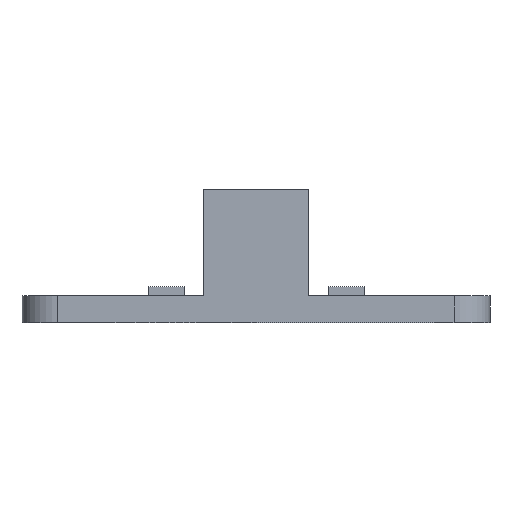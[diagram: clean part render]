
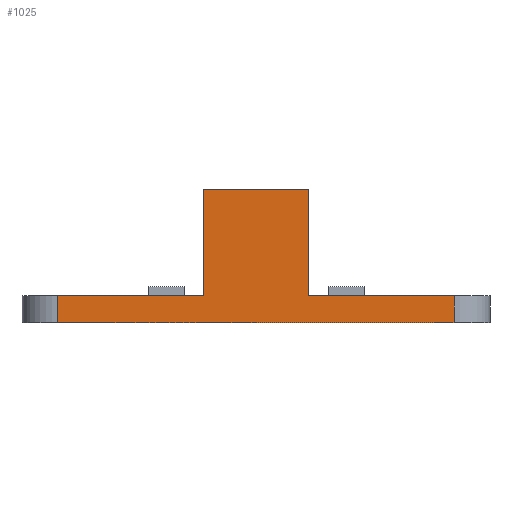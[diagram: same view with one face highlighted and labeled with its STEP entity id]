
A CAD part, left-side view. The second image highlights one B-rep face of the part: STEP entity #1025.
In plain terms, the highlighted planar face has unit normal (-1, 0, 0).
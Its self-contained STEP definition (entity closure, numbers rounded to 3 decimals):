
#44 = PLANE('',#45);
#45 = AXIS2_PLACEMENT_3D('',#46,#47,#48);
#46 = CARTESIAN_POINT('',(0.,0.,3.));
#47 = DIRECTION('',(0.,0.,-1.));
#48 = DIRECTION('',(1.,0.,0.));
#72 = CYLINDRICAL_SURFACE('',#73,4.);
#73 = AXIS2_PLACEMENT_3D('',#74,#75,#76);
#74 = CARTESIAN_POINT('',(-28.5,22.,3.));
#75 = DIRECTION('',(0.,0.,-1.));
#76 = DIRECTION('',(0.,1.,0.));
#100 = PLANE('',#101);
#101 = AXIS2_PLACEMENT_3D('',#102,#103,#104);
#102 = CARTESIAN_POINT('',(0.,0.,0.));
#103 = DIRECTION('',(0.,0.,-1.));
#104 = DIRECTION('',(1.,0.,0.));
#142 = VERTEX_POINT('',#143);
#143 = CARTESIAN_POINT('',(-32.5,22.,3.));
#280 = VERTEX_POINT('',#281);
#281 = CARTESIAN_POINT('',(-32.5,-22.,3.));
#296 = CYLINDRICAL_SURFACE('',#297,4.);
#297 = AXIS2_PLACEMENT_3D('',#298,#299,#300);
#298 = CARTESIAN_POINT('',(-28.5,-22.,3.));
#299 = DIRECTION('',(0.,0.,-1.));
#300 = DIRECTION('',(0.,-1.,0.));
#308 = EDGE_CURVE('',#280,#309,#311,.T.);
#309 = VERTEX_POINT('',#310);
#310 = CARTESIAN_POINT('',(-32.5,-5.85,3.));
#311 = SURFACE_CURVE('',#312,(#316,#323),.PCURVE_S1.);
#312 = LINE('',#313,#314);
#313 = CARTESIAN_POINT('',(-32.5,-26.,3.));
#314 = VECTOR('',#315,1.);
#315 = DIRECTION('',(0.,1.,0.));
#316 = PCURVE('',#44,#317);
#317 = DEFINITIONAL_REPRESENTATION('',(#318),#322);
#318 = LINE('',#319,#320);
#319 = CARTESIAN_POINT('',(-32.5,26.));
#320 = VECTOR('',#321,1.);
#321 = DIRECTION('',(0.,-1.));
#322 = ( GEOMETRIC_REPRESENTATION_CONTEXT(2) 
PARAMETRIC_REPRESENTATION_CONTEXT() REPRESENTATION_CONTEXT('2D SPACE',''
  ) );
#323 = PCURVE('',#324,#329);
#324 = PLANE('',#325);
#325 = AXIS2_PLACEMENT_3D('',#326,#327,#328);
#326 = CARTESIAN_POINT('',(-32.5,-26.,3.));
#327 = DIRECTION('',(1.,0.,0.));
#328 = DIRECTION('',(0.,1.,0.));
#329 = DEFINITIONAL_REPRESENTATION('',(#330),#334);
#330 = LINE('',#331,#332);
#331 = CARTESIAN_POINT('',(0.,0.));
#332 = VECTOR('',#333,1.);
#333 = DIRECTION('',(1.,0.));
#334 = ( GEOMETRIC_REPRESENTATION_CONTEXT(2) 
PARAMETRIC_REPRESENTATION_CONTEXT() REPRESENTATION_CONTEXT('2D SPACE',''
  ) );
#352 = PLANE('',#353);
#353 = AXIS2_PLACEMENT_3D('',#354,#355,#356);
#354 = CARTESIAN_POINT('',(-32.5,-5.85,14.8));
#355 = DIRECTION('',(0.,-1.,0.));
#356 = DIRECTION('',(0.,0.,-1.));
#393 = VERTEX_POINT('',#394);
#394 = CARTESIAN_POINT('',(-32.5,5.85,3.));
#408 = PLANE('',#409);
#409 = AXIS2_PLACEMENT_3D('',#410,#411,#412);
#410 = CARTESIAN_POINT('',(-32.5,5.85,14.8));
#411 = DIRECTION('',(0.,-1.,0.));
#412 = DIRECTION('',(0.,0.,-1.));
#420 = EDGE_CURVE('',#393,#142,#421,.T.);
#421 = SURFACE_CURVE('',#422,(#426,#433),.PCURVE_S1.);
#422 = LINE('',#423,#424);
#423 = CARTESIAN_POINT('',(-32.5,-26.,3.));
#424 = VECTOR('',#425,1.);
#425 = DIRECTION('',(0.,1.,0.));
#426 = PCURVE('',#44,#427);
#427 = DEFINITIONAL_REPRESENTATION('',(#428),#432);
#428 = LINE('',#429,#430);
#429 = CARTESIAN_POINT('',(-32.5,26.));
#430 = VECTOR('',#431,1.);
#431 = DIRECTION('',(0.,-1.));
#432 = ( GEOMETRIC_REPRESENTATION_CONTEXT(2) 
PARAMETRIC_REPRESENTATION_CONTEXT() REPRESENTATION_CONTEXT('2D SPACE',''
  ) );
#433 = PCURVE('',#324,#434);
#434 = DEFINITIONAL_REPRESENTATION('',(#435),#439);
#435 = LINE('',#436,#437);
#436 = CARTESIAN_POINT('',(0.,0.));
#437 = VECTOR('',#438,1.);
#438 = DIRECTION('',(1.,0.));
#439 = ( GEOMETRIC_REPRESENTATION_CONTEXT(2) 
PARAMETRIC_REPRESENTATION_CONTEXT() REPRESENTATION_CONTEXT('2D SPACE',''
  ) );
#743 = EDGE_CURVE('',#142,#744,#746,.T.);
#744 = VERTEX_POINT('',#745);
#745 = CARTESIAN_POINT('',(-32.5,22.,0.));
#746 = SURFACE_CURVE('',#747,(#751,#758),.PCURVE_S1.);
#747 = LINE('',#748,#749);
#748 = CARTESIAN_POINT('',(-32.5,22.,3.));
#749 = VECTOR('',#750,1.);
#750 = DIRECTION('',(0.,0.,-1.));
#751 = PCURVE('',#72,#752);
#752 = DEFINITIONAL_REPRESENTATION('',(#753),#757);
#753 = LINE('',#754,#755);
#754 = CARTESIAN_POINT('',(-1.571,0.));
#755 = VECTOR('',#756,1.);
#756 = DIRECTION('',(-0.,1.));
#757 = ( GEOMETRIC_REPRESENTATION_CONTEXT(2) 
PARAMETRIC_REPRESENTATION_CONTEXT() REPRESENTATION_CONTEXT('2D SPACE',''
  ) );
#758 = PCURVE('',#324,#759);
#759 = DEFINITIONAL_REPRESENTATION('',(#760),#764);
#760 = LINE('',#761,#762);
#761 = CARTESIAN_POINT('',(48.,0.));
#762 = VECTOR('',#763,1.);
#763 = DIRECTION('',(0.,-1.));
#764 = ( GEOMETRIC_REPRESENTATION_CONTEXT(2) 
PARAMETRIC_REPRESENTATION_CONTEXT() REPRESENTATION_CONTEXT('2D SPACE',''
  ) );
#919 = VERTEX_POINT('',#920);
#920 = CARTESIAN_POINT('',(-32.5,-22.,0.));
#942 = EDGE_CURVE('',#919,#744,#943,.T.);
#943 = SURFACE_CURVE('',#944,(#948,#955),.PCURVE_S1.);
#944 = LINE('',#945,#946);
#945 = CARTESIAN_POINT('',(-32.5,-26.,0.));
#946 = VECTOR('',#947,1.);
#947 = DIRECTION('',(0.,1.,0.));
#948 = PCURVE('',#100,#949);
#949 = DEFINITIONAL_REPRESENTATION('',(#950),#954);
#950 = LINE('',#951,#952);
#951 = CARTESIAN_POINT('',(-32.5,26.));
#952 = VECTOR('',#953,1.);
#953 = DIRECTION('',(0.,-1.));
#954 = ( GEOMETRIC_REPRESENTATION_CONTEXT(2) 
PARAMETRIC_REPRESENTATION_CONTEXT() REPRESENTATION_CONTEXT('2D SPACE',''
  ) );
#955 = PCURVE('',#324,#956);
#956 = DEFINITIONAL_REPRESENTATION('',(#957),#961);
#957 = LINE('',#958,#959);
#958 = CARTESIAN_POINT('',(0.,-3.));
#959 = VECTOR('',#960,1.);
#960 = DIRECTION('',(1.,0.));
#961 = ( GEOMETRIC_REPRESENTATION_CONTEXT(2) 
PARAMETRIC_REPRESENTATION_CONTEXT() REPRESENTATION_CONTEXT('2D SPACE',''
  ) );
#1025 = ADVANCED_FACE('',(#1026),#324,.F.);
#1026 = FACE_BOUND('',#1027,.F.);
#1027 = EDGE_LOOP('',(#1028,#1029,#1050,#1051,#1052,#1053,#1076,#1104));
#1028 = ORIENTED_EDGE('',*,*,#308,.F.);
#1029 = ORIENTED_EDGE('',*,*,#1030,.T.);
#1030 = EDGE_CURVE('',#280,#919,#1031,.T.);
#1031 = SURFACE_CURVE('',#1032,(#1036,#1043),.PCURVE_S1.);
#1032 = LINE('',#1033,#1034);
#1033 = CARTESIAN_POINT('',(-32.5,-22.,3.));
#1034 = VECTOR('',#1035,1.);
#1035 = DIRECTION('',(0.,0.,-1.));
#1036 = PCURVE('',#324,#1037);
#1037 = DEFINITIONAL_REPRESENTATION('',(#1038),#1042);
#1038 = LINE('',#1039,#1040);
#1039 = CARTESIAN_POINT('',(4.,0.));
#1040 = VECTOR('',#1041,1.);
#1041 = DIRECTION('',(0.,-1.));
#1042 = ( GEOMETRIC_REPRESENTATION_CONTEXT(2) 
PARAMETRIC_REPRESENTATION_CONTEXT() REPRESENTATION_CONTEXT('2D SPACE',''
  ) );
#1043 = PCURVE('',#296,#1044);
#1044 = DEFINITIONAL_REPRESENTATION('',(#1045),#1049);
#1045 = LINE('',#1046,#1047);
#1046 = CARTESIAN_POINT('',(1.571,0.));
#1047 = VECTOR('',#1048,1.);
#1048 = DIRECTION('',(0.,1.));
#1049 = ( GEOMETRIC_REPRESENTATION_CONTEXT(2) 
PARAMETRIC_REPRESENTATION_CONTEXT() REPRESENTATION_CONTEXT('2D SPACE',''
  ) );
#1050 = ORIENTED_EDGE('',*,*,#942,.T.);
#1051 = ORIENTED_EDGE('',*,*,#743,.F.);
#1052 = ORIENTED_EDGE('',*,*,#420,.F.);
#1053 = ORIENTED_EDGE('',*,*,#1054,.F.);
#1054 = EDGE_CURVE('',#1055,#393,#1057,.T.);
#1055 = VERTEX_POINT('',#1056);
#1056 = CARTESIAN_POINT('',(-32.5,5.85,14.8));
#1057 = SURFACE_CURVE('',#1058,(#1062,#1069),.PCURVE_S1.);
#1058 = LINE('',#1059,#1060);
#1059 = CARTESIAN_POINT('',(-32.5,5.85,14.8));
#1060 = VECTOR('',#1061,1.);
#1061 = DIRECTION('',(0.,0.,-1.));
#1062 = PCURVE('',#324,#1063);
#1063 = DEFINITIONAL_REPRESENTATION('',(#1064),#1068);
#1064 = LINE('',#1065,#1066);
#1065 = CARTESIAN_POINT('',(31.85,11.8));
#1066 = VECTOR('',#1067,1.);
#1067 = DIRECTION('',(0.,-1.));
#1068 = ( GEOMETRIC_REPRESENTATION_CONTEXT(2) 
PARAMETRIC_REPRESENTATION_CONTEXT() REPRESENTATION_CONTEXT('2D SPACE',''
  ) );
#1069 = PCURVE('',#408,#1070);
#1070 = DEFINITIONAL_REPRESENTATION('',(#1071),#1075);
#1071 = LINE('',#1072,#1073);
#1072 = CARTESIAN_POINT('',(0.,0.));
#1073 = VECTOR('',#1074,1.);
#1074 = DIRECTION('',(1.,0.));
#1075 = ( GEOMETRIC_REPRESENTATION_CONTEXT(2) 
PARAMETRIC_REPRESENTATION_CONTEXT() REPRESENTATION_CONTEXT('2D SPACE',''
  ) );
#1076 = ORIENTED_EDGE('',*,*,#1077,.T.);
#1077 = EDGE_CURVE('',#1055,#1078,#1080,.T.);
#1078 = VERTEX_POINT('',#1079);
#1079 = CARTESIAN_POINT('',(-32.5,-5.85,14.8));
#1080 = SURFACE_CURVE('',#1081,(#1085,#1092),.PCURVE_S1.);
#1081 = LINE('',#1082,#1083);
#1082 = CARTESIAN_POINT('',(-32.5,5.85,14.8));
#1083 = VECTOR('',#1084,1.);
#1084 = DIRECTION('',(0.,-1.,0.));
#1085 = PCURVE('',#324,#1086);
#1086 = DEFINITIONAL_REPRESENTATION('',(#1087),#1091);
#1087 = LINE('',#1088,#1089);
#1088 = CARTESIAN_POINT('',(31.85,11.8));
#1089 = VECTOR('',#1090,1.);
#1090 = DIRECTION('',(-1.,0.));
#1091 = ( GEOMETRIC_REPRESENTATION_CONTEXT(2) 
PARAMETRIC_REPRESENTATION_CONTEXT() REPRESENTATION_CONTEXT('2D SPACE',''
  ) );
#1092 = PCURVE('',#1093,#1098);
#1093 = PLANE('',#1094);
#1094 = AXIS2_PLACEMENT_3D('',#1095,#1096,#1097);
#1095 = CARTESIAN_POINT('',(-32.5,5.85,14.8));
#1096 = DIRECTION('',(0.,0.,-1.));
#1097 = DIRECTION('',(1.,0.,0.));
#1098 = DEFINITIONAL_REPRESENTATION('',(#1099),#1103);
#1099 = LINE('',#1100,#1101);
#1100 = CARTESIAN_POINT('',(0.,0.));
#1101 = VECTOR('',#1102,1.);
#1102 = DIRECTION('',(0.,1.));
#1103 = ( GEOMETRIC_REPRESENTATION_CONTEXT(2) 
PARAMETRIC_REPRESENTATION_CONTEXT() REPRESENTATION_CONTEXT('2D SPACE',''
  ) );
#1104 = ORIENTED_EDGE('',*,*,#1105,.T.);
#1105 = EDGE_CURVE('',#1078,#309,#1106,.T.);
#1106 = SURFACE_CURVE('',#1107,(#1111,#1118),.PCURVE_S1.);
#1107 = LINE('',#1108,#1109);
#1108 = CARTESIAN_POINT('',(-32.5,-5.85,14.8));
#1109 = VECTOR('',#1110,1.);
#1110 = DIRECTION('',(0.,0.,-1.));
#1111 = PCURVE('',#324,#1112);
#1112 = DEFINITIONAL_REPRESENTATION('',(#1113),#1117);
#1113 = LINE('',#1114,#1115);
#1114 = CARTESIAN_POINT('',(20.15,11.8));
#1115 = VECTOR('',#1116,1.);
#1116 = DIRECTION('',(0.,-1.));
#1117 = ( GEOMETRIC_REPRESENTATION_CONTEXT(2) 
PARAMETRIC_REPRESENTATION_CONTEXT() REPRESENTATION_CONTEXT('2D SPACE',''
  ) );
#1118 = PCURVE('',#352,#1119);
#1119 = DEFINITIONAL_REPRESENTATION('',(#1120),#1124);
#1120 = LINE('',#1121,#1122);
#1121 = CARTESIAN_POINT('',(0.,0.));
#1122 = VECTOR('',#1123,1.);
#1123 = DIRECTION('',(1.,0.));
#1124 = ( GEOMETRIC_REPRESENTATION_CONTEXT(2) 
PARAMETRIC_REPRESENTATION_CONTEXT() REPRESENTATION_CONTEXT('2D SPACE',''
  ) );
